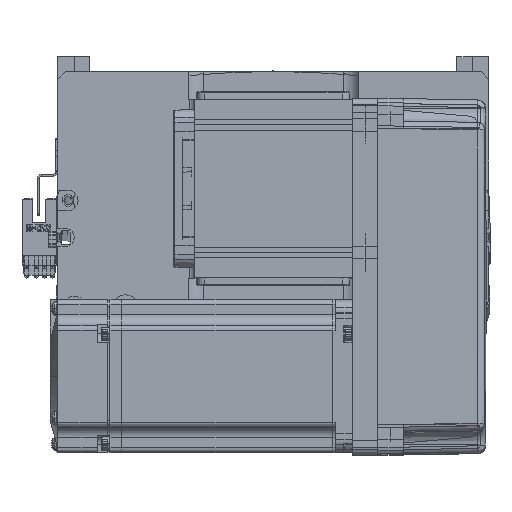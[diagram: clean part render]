
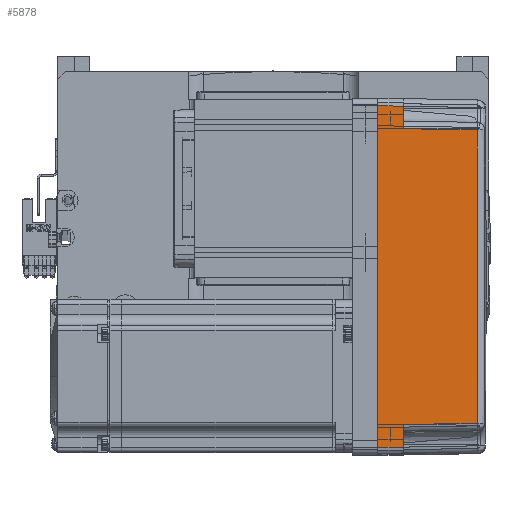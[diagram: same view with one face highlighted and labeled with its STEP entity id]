
A CAD part, top view. The second image highlights one B-rep face of the part: STEP entity #5878.
In plain terms, the highlighted planar face has unit normal (0.018, 0, 1) as drawn and (0, 1, 0.017) by its records, which use the part's own axes.
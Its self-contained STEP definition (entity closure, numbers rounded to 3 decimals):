
#421 = CARTESIAN_POINT ( 'NONE',  ( 66.826, 35.825, 10. ) ) ;
#2603 = LINE ( 'NONE', #27221, #30788 ) ;
#5878 = ADVANCED_FACE ( 'NONE', ( #54858 ), #67537, .T. ) ;
#5972 = VECTOR ( 'NONE', #47899, 1000. ) ;
#6741 = CARTESIAN_POINT ( 'NONE',  ( 70., 35.825, 10. ) ) ;
#6828 = VERTEX_POINT ( 'NONE', #421 ) ;
#7514 = ORIENTED_EDGE ( 'NONE', *, *, #58219, .T. ) ;
#7920 = VERTEX_POINT ( 'NONE', #15451 ) ;
#8066 = VECTOR ( 'NONE', #9230, 1000. ) ;
#8938 = CARTESIAN_POINT ( 'NONE',  ( 57.495, 35.32, 38.985 ) ) ;
#9230 = DIRECTION ( 'NONE',  ( 1., 0., 0. ) ) ;
#10298 = VERTEX_POINT ( 'NONE', #32356 ) ;
#11856 = VECTOR ( 'NONE', #12954, 1000. ) ;
#12872 = CARTESIAN_POINT ( 'NONE',  ( 57.495, 35.32, 38.985 ) ) ;
#12954 = DIRECTION ( 'NONE',  ( 1., 0., 0. ) ) ;
#13110 = CARTESIAN_POINT ( 'NONE',  ( -57.495, 35.32, 38.985 ) ) ;
#13348 = VERTEX_POINT ( 'NONE', #14659 ) ;
#14659 = CARTESIAN_POINT ( 'NONE',  ( -67., 36., 0. ) ) ;
#14823 = CARTESIAN_POINT ( 'NONE',  ( 70., 36., 0. ) ) ;
#15451 = CARTESIAN_POINT ( 'NONE',  ( -57.495, 35.32, 38.985 ) ) ;
#15463 = CARTESIAN_POINT ( 'NONE',  ( 67.001, 36.001, -0.052 ) ) ;
#17225 = EDGE_CURVE ( 'NONE', #54610, #6828, #39198, .T. ) ;
#18404 = CARTESIAN_POINT ( 'NONE',  ( -67., 36., 0. ) ) ;
#18562 = VERTEX_POINT ( 'NONE', #30163 ) ;
#19667 = LINE ( 'NONE', #41110, #8066 ) ;
#19694 = EDGE_CURVE ( 'NONE', #55682, #10298, #26672, .T. ) ;
#19943 = VECTOR ( 'NONE', #66960, 1000. ) ;
#20028 = EDGE_CURVE ( 'NONE', #18562, #6828, #43260, .T. ) ;
#20358 = DIRECTION ( 'NONE',  ( 0., 1., 0.017 ) ) ;
#20740 = ORIENTED_EDGE ( 'NONE', *, *, #66724, .T. ) ;
#22259 = EDGE_LOOP ( 'NONE', ( #67093, #52760, #20740, #62748, #7514, #59771, #62438, #60632 ) ) ;
#22607 = CARTESIAN_POINT ( 'NONE',  ( -66.826, 35.825, 10. ) ) ;
#26672 = LINE ( 'NONE', #48355, #5972 ) ;
#27221 = CARTESIAN_POINT ( 'NONE',  ( -58., 35.825, 10. ) ) ;
#27515 = B_SPLINE_CURVE_WITH_KNOTS ( 'NONE', 3,
 ( #13110, #60340, #65175, #12872 ),
 .UNSPECIFIED., .F., .F.,
 ( 4, 4 ),
 ( 0., 1. ),
 .UNSPECIFIED. ) ;
#30163 = CARTESIAN_POINT ( 'NONE',  ( 67., 36., 0. ) ) ;
#30788 = VECTOR ( 'NONE', #48927, 1000. ) ;
#32356 = CARTESIAN_POINT ( 'NONE',  ( -58., 35.825, 10. ) ) ;
#34048 = LINE ( 'NONE', #8938, #19943 ) ;
#37444 = DIRECTION ( 'NONE',  ( -0.017, -0.017, 1. ) ) ;
#39198 = LINE ( 'NONE', #6741, #11856 ) ;
#39845 = VECTOR ( 'NONE', #37444, 1000. ) ;
#39871 = DIRECTION ( 'NONE',  ( 0.017, -0.017, 1. ) ) ;
#41110 = CARTESIAN_POINT ( 'NONE',  ( 0., 36., 0. ) ) ;
#42124 = AXIS2_PLACEMENT_3D ( 'NONE', #14823, #20358, #46937 ) ;
#42922 = LINE ( 'NONE', #18404, #63681 ) ;
#43260 = LINE ( 'NONE', #15463, #39845 ) ;
#46937 = DIRECTION ( 'NONE',  ( 0., -0.017, 1. ) ) ;
#47514 = CARTESIAN_POINT ( 'NONE',  ( 58., 35.825, 10. ) ) ;
#47899 = DIRECTION ( 'NONE',  ( 1., 0., 0. ) ) ;
#48355 = CARTESIAN_POINT ( 'NONE',  ( 70., 35.825, 10. ) ) ;
#48927 = DIRECTION ( 'NONE',  ( 0.017, -0.017, 1. ) ) ;
#49180 = EDGE_CURVE ( 'NONE', #7920, #61102, #27515, .T. ) ;
#52760 = ORIENTED_EDGE ( 'NONE', *, *, #19694, .T. ) ;
#54610 = VERTEX_POINT ( 'NONE', #47514 ) ;
#54858 = FACE_OUTER_BOUND ( 'NONE', #22259, .T. ) ;
#55077 = CARTESIAN_POINT ( 'NONE',  ( 57.495, 35.32, 38.985 ) ) ;
#55682 = VERTEX_POINT ( 'NONE', #22607 ) ;
#58219 = EDGE_CURVE ( 'NONE', #61102, #54610, #34048, .T. ) ;
#59771 = ORIENTED_EDGE ( 'NONE', *, *, #17225, .T. ) ;
#59867 = EDGE_CURVE ( 'NONE', #13348, #18562, #19667, .T. ) ;
#60340 = CARTESIAN_POINT ( 'NONE',  ( -19.165, 35.316, 39.181 ) ) ;
#60425 = EDGE_CURVE ( 'NONE', #13348, #55682, #42922, .T. ) ;
#60632 = ORIENTED_EDGE ( 'NONE', *, *, #59867, .F. ) ;
#61102 = VERTEX_POINT ( 'NONE', #55077 ) ;
#62438 = ORIENTED_EDGE ( 'NONE', *, *, #20028, .F. ) ;
#62748 = ORIENTED_EDGE ( 'NONE', *, *, #49180, .T. ) ;
#63681 = VECTOR ( 'NONE', #39871, 1000. ) ;
#65175 = CARTESIAN_POINT ( 'NONE',  ( 19.165, 35.316, 39.181 ) ) ;
#66724 = EDGE_CURVE ( 'NONE', #10298, #7920, #2603, .T. ) ;
#66960 = DIRECTION ( 'NONE',  ( 0.017, 0.017, -1. ) ) ;
#67093 = ORIENTED_EDGE ( 'NONE', *, *, #60425, .T. ) ;
#67537 = PLANE ( 'NONE',  #42124 ) ;
